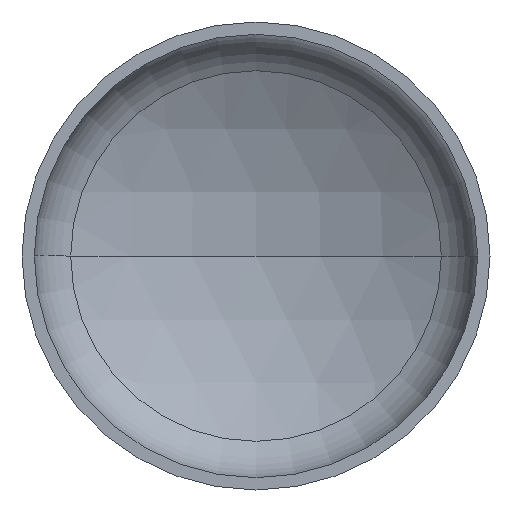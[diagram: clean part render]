
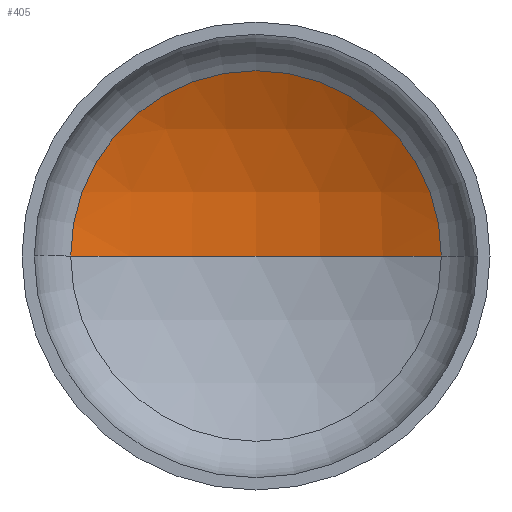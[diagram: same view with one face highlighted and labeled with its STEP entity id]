
A CAD part, front view. The second image highlights one B-rep face of the part: STEP entity #405.
In plain terms, the highlighted spherical face has radius 3040 mm.
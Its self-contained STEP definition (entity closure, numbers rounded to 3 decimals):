
#4 = AXIS2_PLACEMENT_3D ( 'NONE', #296, #314, #307 ) ;
#7 = AXIS2_PLACEMENT_3D ( 'NONE', #394, #79, #403 ) ;
#32 = VERTEX_POINT ( 'NONE', #334 ) ;
#65 = ORIENTED_EDGE ( 'NONE', *, *, #336, .T. ) ;
#78 = ORIENTED_EDGE ( 'NONE', *, *, #313, .T. ) ;
#79 = DIRECTION ( 'NONE',  ( 0., 0., -1. ) ) ;
#81 = CIRCLE ( 'NONE', #227, 1504.521 ) ;
#86 = EDGE_LOOP ( 'NONE', ( #106, #78, #65 ) ) ;
#88 = VERTEX_POINT ( 'NONE', #247 ) ;
#104 = CARTESIAN_POINT ( 'NONE',  ( 0., 1006.74, 0. ) ) ;
#106 = ORIENTED_EDGE ( 'NONE', *, *, #321, .F. ) ;
#120 = VERTEX_POINT ( 'NONE', #104 ) ;
#122 = CIRCLE ( 'NONE', #7, 3040. ) ;
#142 = CARTESIAN_POINT ( 'NONE',  ( 0., -2033.26, 0. ) ) ;
#143 = DIRECTION ( 'NONE',  ( 0., 0., -1. ) ) ;
#157 = FACE_OUTER_BOUND ( 'NONE', #86, .T. ) ;
#173 = DIRECTION ( 'NONE',  ( -1., 0., 0. ) ) ;
#214 = DIRECTION ( 'NONE',  ( 1., 0., 0. ) ) ;
#216 = DIRECTION ( 'NONE',  ( 0., -1., 0. ) ) ;
#217 = CARTESIAN_POINT ( 'NONE',  ( 0., 608.333, 0. ) ) ;
#227 = AXIS2_PLACEMENT_3D ( 'NONE', #217, #216, #214 ) ;
#247 = CARTESIAN_POINT ( 'NONE',  ( -1504.521, 608.333, 0. ) ) ;
#265 = CIRCLE ( 'NONE', #4, 3040. ) ;
#296 = CARTESIAN_POINT ( 'NONE',  ( 0., -2033.26, 0. ) ) ;
#307 = DIRECTION ( 'NONE',  ( 1., 0., 0. ) ) ;
#313 = EDGE_CURVE ( 'NONE', #120, #32, #122, .T. ) ;
#314 = DIRECTION ( 'NONE',  ( 0., 0., 1. ) ) ;
#321 = EDGE_CURVE ( 'NONE', #120, #88, #265, .T. ) ;
#334 = CARTESIAN_POINT ( 'NONE',  ( 1504.521, 608.333, 0. ) ) ;
#336 = EDGE_CURVE ( 'NONE', #32, #88, #81, .T. ) ;
#353 = SPHERICAL_SURFACE ( 'NONE', #370, 3040. ) ;
#370 = AXIS2_PLACEMENT_3D ( 'NONE', #142, #143, #173 ) ;
#394 = CARTESIAN_POINT ( 'NONE',  ( 0., -2033.26, 0. ) ) ;
#403 = DIRECTION ( 'NONE',  ( -1., 0., 0. ) ) ;
#405 = ADVANCED_FACE ( 'NONE', ( #157 ), #353, .F. ) ;
